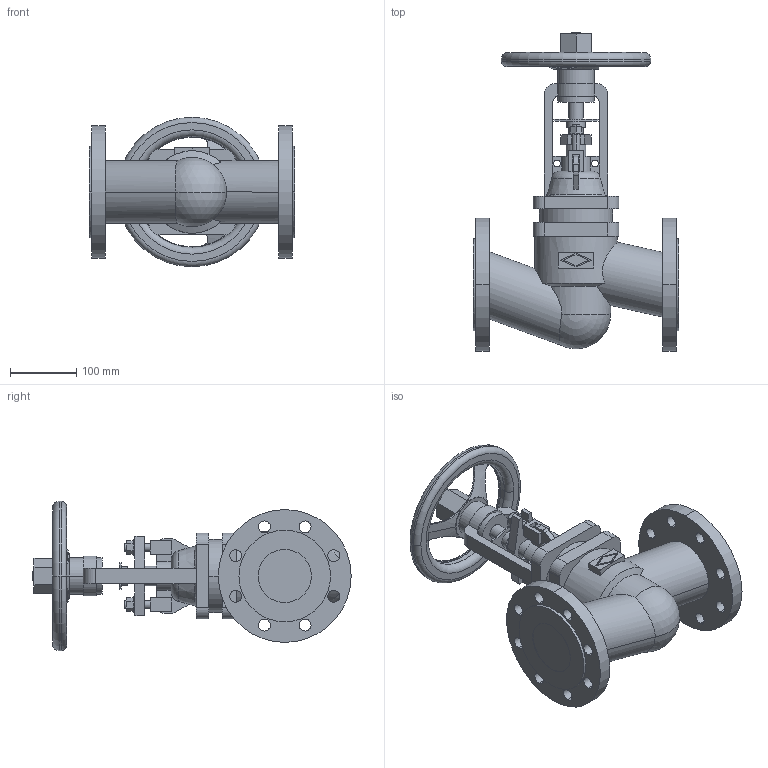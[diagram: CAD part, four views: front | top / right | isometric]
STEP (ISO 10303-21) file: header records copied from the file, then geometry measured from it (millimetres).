
FILE_DESCRIPTION(('OneSpaceDesigner STEP Export'),'2;1');
FILE_NAME('c000003731.stp','2009-06-15T12:38:09',(''),(''),'OneSpace Designer STEP processor for AP214 (Solid Model)','OneSpace Modeling 15.50B 03-Nov-2007 (C) CoCreate Software GmbH','');
FILE_SCHEMA(('AUTOMOTIVE_DESIGN { 1 0 10303 214 1 1 1 1 }'));
Length unit declared in the file: millimetre
Products named in the file (1): 1
Bounding box: 310 x 479.3 x 225 mm (x, y, z)
Volume: 5953210.7 mm3; surface area: 469769.9 mm2
Topology: 1 solids, 1 shells, 320 faces, 866 edges, 570 vertices
Faces by surface type: plane 148, cylinder 140, torus 20, cone 10, sphere 2
Entity records: 12952 total; most frequent: CARTESIAN_POINT 2753, ORIENTED_EDGE 1728, DIRECTION 1390, EDGE_CURVE 864, VERTEX_POINT 570, AXIS2_PLACEMENT_3D 476, VECTOR 438, LINE 438
